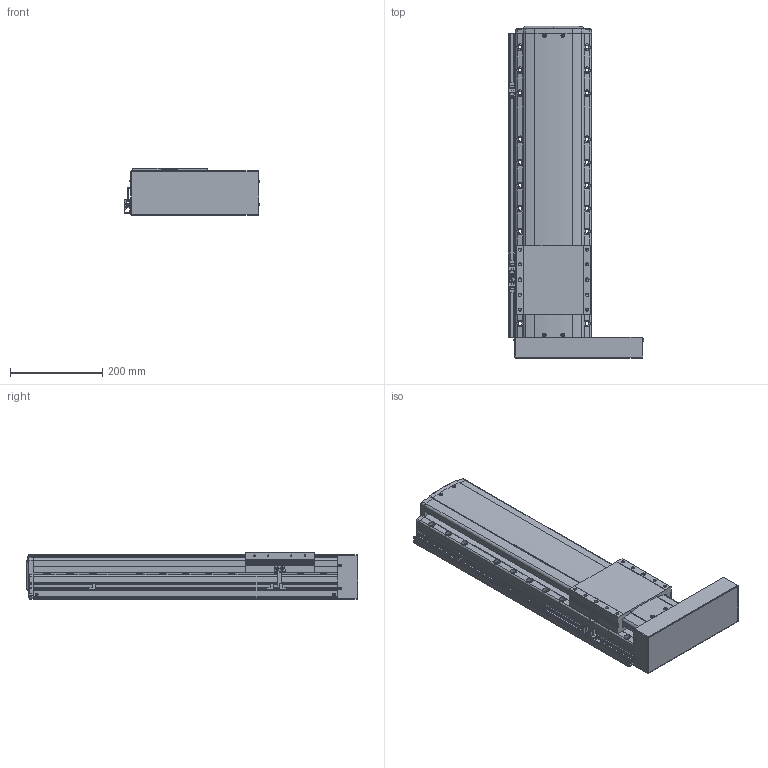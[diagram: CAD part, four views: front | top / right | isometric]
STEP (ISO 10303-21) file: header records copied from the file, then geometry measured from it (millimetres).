
FILE_DESCRIPTION(('STEP AP214'),'1');
FILE_NAME('Z:/Web/3D/PSA165/STP/PSA165-400 (3D)/PSA165ㅁㅁ-400PR+3SL.stp','2014-06-23T11:11:03',(' '),(' '),'Spatial InterOp 3D',' ',' ');
FILE_SCHEMA(('automotive_design'));
Length unit declared in the file: millimetre
Products named in the file (41): 스크루 : Round - M4.0 x 12.0; RRCV-PA160; BASE; 스크루 : Round - M4.0 x 10.0; RN15; Screw 20; SLIDE; FRCV; MTPL; 스크루 : Round - M3.0 x 6.0; M3.0 x 6.0; SRL-16x17-360L; SGD-SAN150; EE-SX674; SBK-SX674-352; BHCS M4.0 x 10.0
Bounding box: 294.46 x 720.8 x 104 mm (x, y, z)
Volume: 10692329.2 mm3; surface area: 829159.8 mm2
Topology: 41 solids, 41 shells, 2492 faces, 6669 edges, 4285 vertices
Faces by surface type: plane 1443, cylinder 735, cone 209, sphere 64, bspline 25, torus 16
Entity records: 100993 total; most frequent: CARTESIAN_POINT 17393, DIRECTION 13287, ORIENTED_EDGE 13062, EDGE_CURVE 6531, AXIS2_PLACEMENT_3D 4433, LINE 4421, VECTOR 4421, VERTEX_POINT 4285
